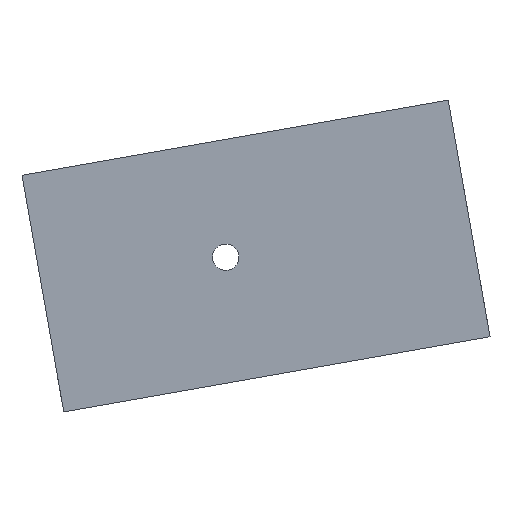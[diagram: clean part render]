
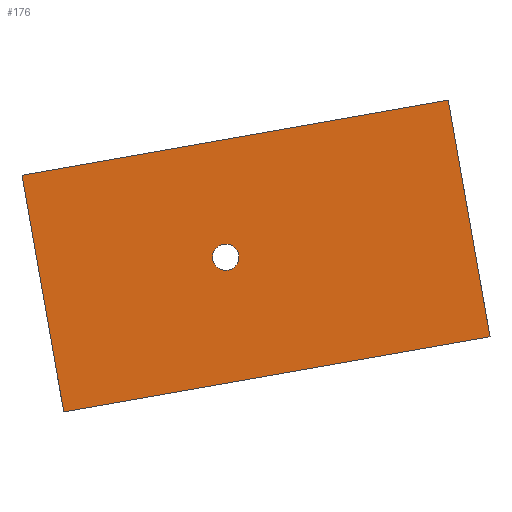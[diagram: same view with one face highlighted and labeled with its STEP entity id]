
A CAD part, left-side view. The second image highlights one B-rep face of the part: STEP entity #176.
In plain terms, the highlighted planar face has unit normal (-1, 0, 0).
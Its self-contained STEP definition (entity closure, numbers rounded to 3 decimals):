
#27=CARTESIAN_POINT('',(-388.5,45.006,1399.236));
#28=VERTEX_POINT('',#27);
#45=CARTESIAN_POINT('',(-388.5,-167.713,1436.744));
#46=VERTEX_POINT('',#45);
#53=CARTESIAN_POINT('',(-388.5,45.006,1399.236));
#54=DIRECTION('',(0.0,-0.985,0.174));
#55=VECTOR('',#54,1.);
#56=LINE('',#53,#55);
#57=EDGE_CURVE('',#28,#46,#56,.T.);
#135=CARTESIAN_POINT('',(-388.5,65.844,1517.413));
#136=DIRECTION('',(-1.0,0.0,0.0));
#137=DIRECTION('',(0.0,-0.174,-0.985));
#138=AXIS2_PLACEMENT_3D('',#135,#136,#137);
#139=PLANE('',#138);
#140=CARTESIAN_POINT('',(-388.5,65.844,1517.413));
#141=VERTEX_POINT('',#140);
#142=CARTESIAN_POINT('',(-388.5,65.844,1517.413));
#143=DIRECTION('',(0.,-0.174,-0.985));
#144=VECTOR('',#143,1.);
#145=LINE('',#142,#144);
#146=EDGE_CURVE('',#141,#28,#145,.T.);
#147=ORIENTED_EDGE('',*,*,#146,.T.);
#148=ORIENTED_EDGE('',*,*,#57,.T.);
#149=CARTESIAN_POINT('',(-388.5,-146.875,1554.921));
#150=VERTEX_POINT('',#149);
#151=CARTESIAN_POINT('',(-388.5,-146.875,1554.921));
#152=DIRECTION('',(0.,-0.174,-0.985));
#153=VECTOR('',#152,1.);
#154=LINE('',#151,#153);
#155=EDGE_CURVE('',#150,#46,#154,.T.);
#156=ORIENTED_EDGE('',*,*,#155,.F.);
#157=CARTESIAN_POINT('',(-388.5,65.844,1517.413));
#158=DIRECTION('',(0.0,-0.985,0.174));
#159=VECTOR('',#158,1.);
#160=LINE('',#157,#159);
#161=EDGE_CURVE('',#141,#150,#160,.T.);
#162=ORIENTED_EDGE('',*,*,#161,.F.);
#163=EDGE_LOOP('',(#147,#148,#156,#162));
#164=FACE_OUTER_BOUND('',#163,.T.);
#165=CARTESIAN_POINT('',(-388.5,-34.669,1482.943));
#166=VERTEX_POINT('',#165);
#167=CARTESIAN_POINT('',(-388.5,-35.815,1476.443));
#168=DIRECTION('',(-1.0,0.,0.));
#169=DIRECTION('',(0.,0.174,0.985));
#170=AXIS2_PLACEMENT_3D('',#167,#168,#169);
#171=CIRCLE('',#170,6.6);
#172=EDGE_CURVE('',#166,#166,#171,.T.);
#173=ORIENTED_EDGE('',*,*,#172,.F.);
#174=EDGE_LOOP('',(#173));
#175=FACE_BOUND('',#174,.T.);
#176=ADVANCED_FACE('',(#164,#175),#139,.T.);
